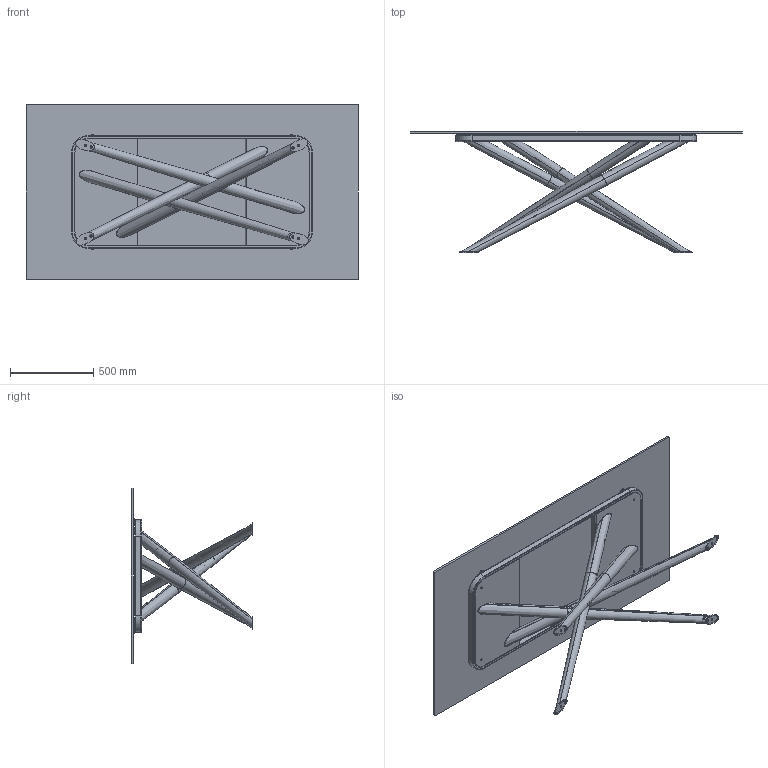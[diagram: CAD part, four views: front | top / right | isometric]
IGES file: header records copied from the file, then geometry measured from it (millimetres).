
Start section: SolidWorks IGES file using analytic representation for surfaces
Global section: file name: Y:\eforma\TECNICO\SOLIDWORKS\E-FORMA\1-TAVOLI\BALY\02 parts\BA21G.IGS; native system: SolidWorks 2022; preprocessor: SolidWorks 2022; author: eforma.tech; date: 240808.080542; units: millimetre
Bounding box: 2000 x 731 x 1060 mm (x, y, z)
Volume: 31288685.5 mm3; surface area: 8559338.6 mm2
Topology: 39 solids, 39 shells, 684 faces, 1380 edges, 768 vertices
Faces by surface type: revolution 352, plane 314, bspline 18
